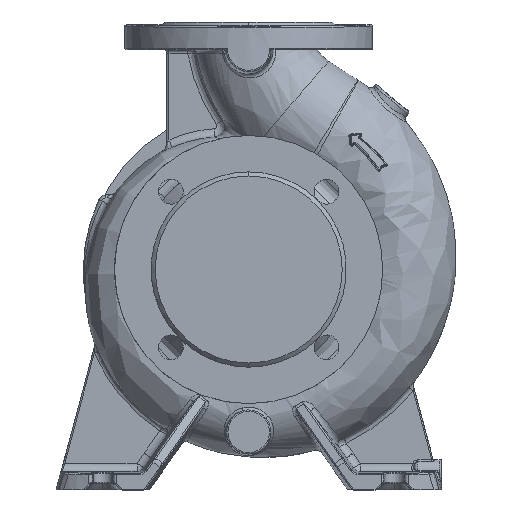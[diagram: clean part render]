
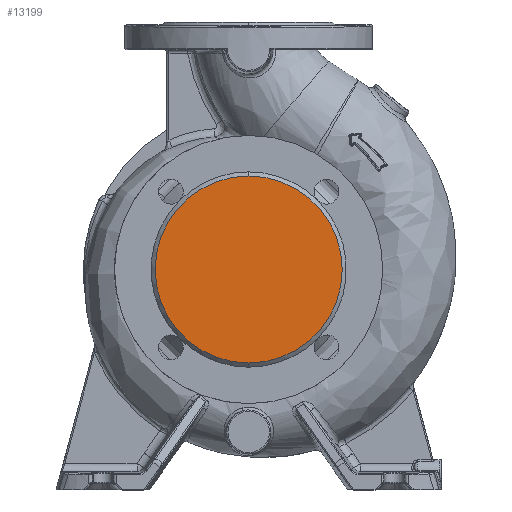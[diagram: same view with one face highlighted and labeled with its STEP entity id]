
A CAD part, top view. The second image highlights one B-rep face of the part: STEP entity #13199.
In plain terms, the highlighted planar face has unit normal (0, 0, 1).
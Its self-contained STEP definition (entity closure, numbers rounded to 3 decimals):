
#11 = EDGE_LOOP ( 'NONE', ( #47776, #44306 ) ) ;
#1775 = CARTESIAN_POINT ( 'NONE',  ( 0., 0., 100. ) ) ;
#9817 = CARTESIAN_POINT ( 'NONE',  ( 0., 68., 100. ) ) ;
#10777 = DIRECTION ( 'NONE',  ( 0., 1., 0. ) ) ;
#13199 = ADVANCED_FACE ( 'NONE', ( #32328 ), #33059, .F. ) ;
#13388 = AXIS2_PLACEMENT_3D ( 'NONE', #48425, #57633, #34370 ) ;
#16183 = VERTEX_POINT ( 'NONE', #9817 ) ;
#19362 = CIRCLE ( 'NONE', #29095, 68. ) ;
#20820 = DIRECTION ( 'NONE',  ( 0., 0., -1. ) ) ;
#21009 = CARTESIAN_POINT ( 'NONE',  ( 0., 0., 100. ) ) ;
#24168 = DIRECTION ( 'NONE',  ( 0., 0., -1. ) ) ;
#29095 = AXIS2_PLACEMENT_3D ( 'NONE', #21009, #20820, #29321 ) ;
#29321 = DIRECTION ( 'NONE',  ( 0., 1., 0. ) ) ;
#29419 = EDGE_CURVE ( 'NONE', #39131, #16183, #19362, .T. ) ;
#30027 = CIRCLE ( 'NONE', #13388, 68. ) ;
#32328 = FACE_OUTER_BOUND ( 'NONE', #11, .T. ) ;
#33059 = PLANE ( 'NONE',  #55322 ) ;
#34370 = DIRECTION ( 'NONE',  ( 0., 1., 0. ) ) ;
#39131 = VERTEX_POINT ( 'NONE', #50590 ) ;
#44306 = ORIENTED_EDGE ( 'NONE', *, *, #29419, .F. ) ;
#44799 = EDGE_CURVE ( 'NONE', #16183, #39131, #30027, .T. ) ;
#47776 = ORIENTED_EDGE ( 'NONE', *, *, #44799, .F. ) ;
#48425 = CARTESIAN_POINT ( 'NONE',  ( 0., 0., 100. ) ) ;
#50590 = CARTESIAN_POINT ( 'NONE',  ( 0., -68., 100. ) ) ;
#55322 = AXIS2_PLACEMENT_3D ( 'NONE', #1775, #24168, #10777 ) ;
#57633 = DIRECTION ( 'NONE',  ( 0., 0., -1. ) ) ;
